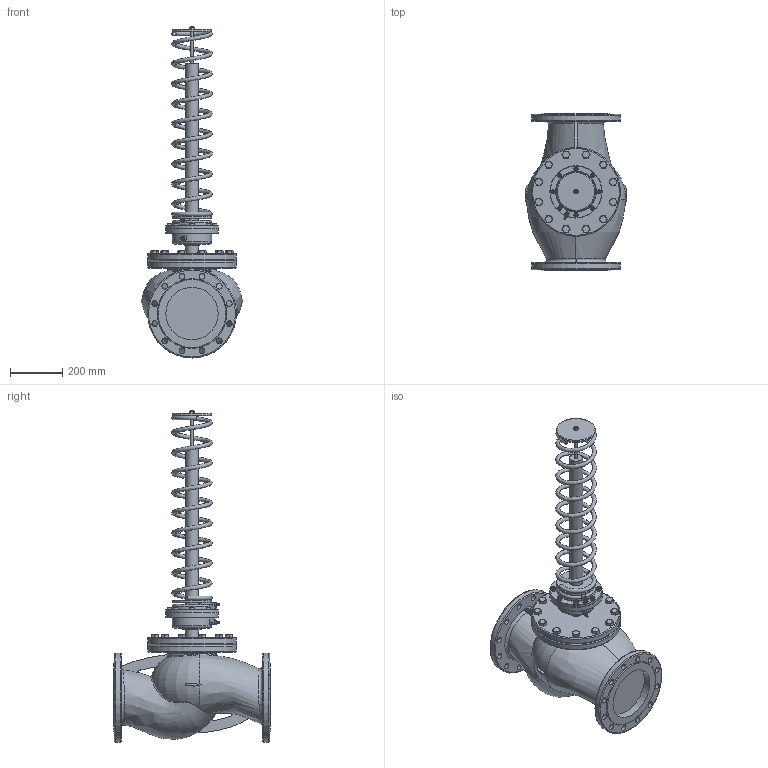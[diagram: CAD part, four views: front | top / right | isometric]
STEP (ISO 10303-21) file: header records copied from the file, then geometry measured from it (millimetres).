
FILE_DESCRIPTION(('STEP AP203'), '1');
FILE_NAME('Ðåãóëÿòîðû ïåðåïàäà äàâëåíèÿ ÐÄÒ Äó200', '', ('UNSPECIFIED'), ('UNSPECIFIED'), 'ASCON STEP Converter 1.6', 'ASCON Math Kernel', '');
FILE_SCHEMA(('CONFIG_CONTROL_DESIGN'));
Length unit declared in the file: millimetre
Products named in the file (1): -12
Bounding box: 390 x 600 x 1270 mm (x, y, z)
Volume: 45832639.6 mm3; surface area: 1835814.1 mm2
Topology: 30 solids, 30 shells, 650 faces, 1409 edges, 860 vertices
Faces by surface type: plane 326, cylinder 135, cone 102, torus 48, bspline 33, sphere 4, revolution 1, extrusion 1
Full cylindrical faces by diameter (mm): 1.7 x2, 2.7 x4, 6 x10, 6.5 x4, 8 x10, 8.5 x4, 8.917 x1, 10 x12, 16 x8, 20 x12, 22 x36, 50 x3, 150 x3, 200 x4, 340 x4
Entity records: 51211 total; most frequent: CARTESIAN_POINT 32833, DIRECTION 2557, ORIENTED_EDGE 2316, EDGE_CURVE 1158, AXIS2_PLACEMENT_3D 1082, EDGE_LOOP 1023, VERTEX_POINT 851, COLOUR_RGB 680
